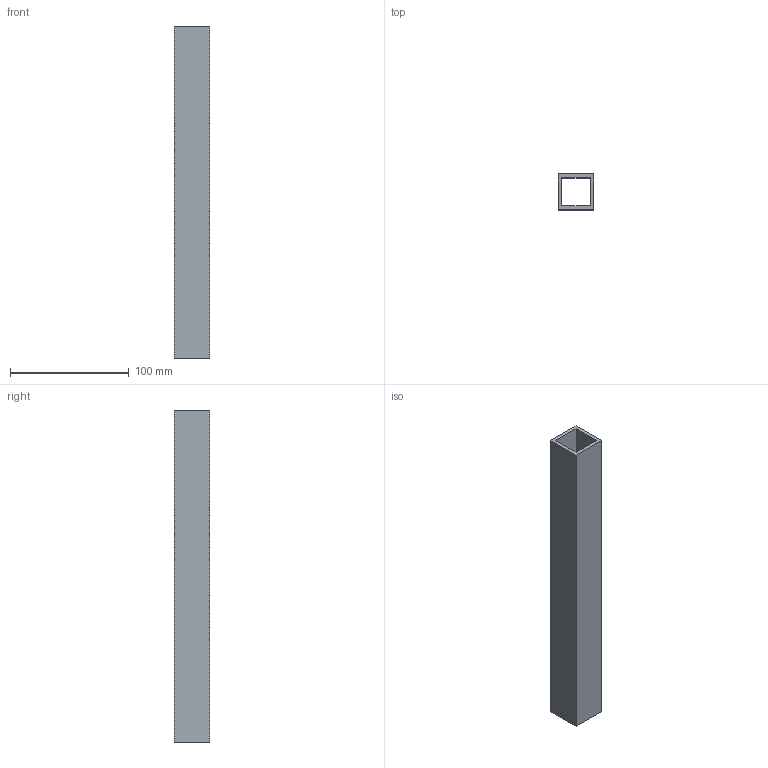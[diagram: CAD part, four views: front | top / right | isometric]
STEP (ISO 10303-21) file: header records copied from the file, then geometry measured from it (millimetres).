
FILE_DESCRIPTION(('Open CASCADE Model'),'2;1');
FILE_NAME('Open CASCADE Shape Model','2026-10-04T02:31:38',('Author'),( 'Open CASCADE'),'Open CASCADE STEP processor 8.0','Open CASCADE 8.0' ,'Unknown');
FILE_SCHEMA(('AUTOMOTIVE_DESIGN { 1 0 10303 214 1 1 1 1 }'));
Length unit declared in the file: millimetre
Products named in the file (1): Open CASCADE STEP translator 8.0 137
Bounding box: 30 x 30 x 279 mm (x, y, z)
Volume: 90396 mm3; surface area: 60912 mm2
Topology: 1 solids, 1 shells, 10 faces, 24 edges, 16 vertices
Faces by surface type: plane 10
Entity records: 598 total; most frequent: CARTESIAN_POINT 115, DIRECTION 78, LINE 56, VECTOR 56, ORIENTED_EDGE 48, PCURVE 48, DEFINITIONAL_REPRESENTATION 48, EDGE_CURVE 24
